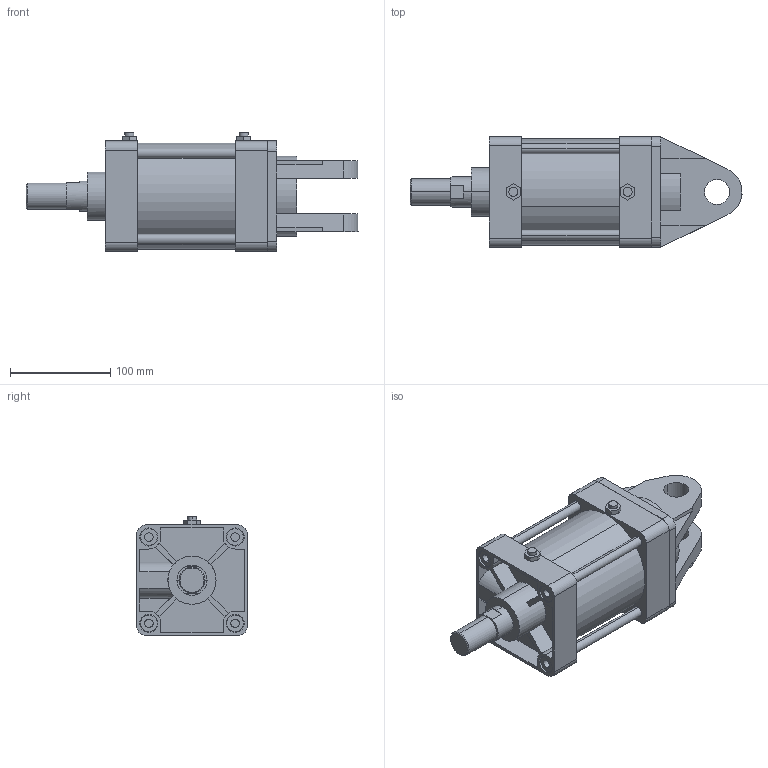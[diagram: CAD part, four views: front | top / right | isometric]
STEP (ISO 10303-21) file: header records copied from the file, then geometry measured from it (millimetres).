
FILE_DESCRIPTION (( 'STEP AP203' ), '1' );
FILE_NAME ('KG2-100-50-W.STEP', '2016-04-01T08:24:53', ( '' ), ( '' ), 'SwSTEP 2.0', 'SolidWorks 2014', '' );
FILE_SCHEMA (( 'CONFIG_CONTROL_DESIGN' ));
Length unit declared in the file: millimetre
Products named in the file (7): K-100-W; KG2-100-After; KG2-100-50-W; KGLH2-100-50
Assembly tree (16 placements, depth 2):
  KG2-100-50-W
    KG2-100-After
    KGLH2-100-50
    (unnamed)
    (unnamed)  x4
    (unnamed)  x8
    K-100-W
Bounding box: 330.91 x 110 x 118.3 mm (x, y, z)
Volume: 1834394.4 mm3; surface area: 259789.2 mm2
Topology: 16 solids, 16 shells, 356 faces, 856 edges, 548 vertices
Faces by surface type: plane 160, cylinder 138, torus 32, cone 26
Entity records: 9104 total; most frequent: CARTESIAN_POINT 1469, DIRECTION 1460, ORIENTED_EDGE 1332, EDGE_CURVE 666, AXIS2_PLACEMENT_3D 531, VERTEX_POINT 438, LINE 398, VECTOR 398
